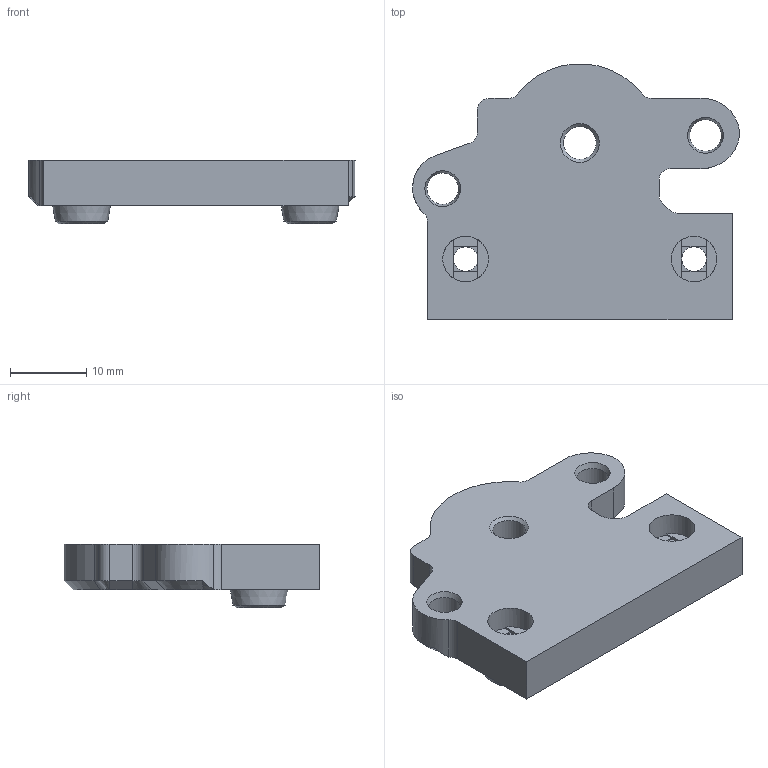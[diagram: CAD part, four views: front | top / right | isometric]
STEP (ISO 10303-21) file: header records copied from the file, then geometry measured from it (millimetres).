
FILE_DESCRIPTION(/* description */ (''),/* implementation_level */ '2;1');
FILE_NAME(/* name */ 'HMG7-Orbiter-V1.5-Front-Mount.step',/* time_stamp */ '2022-11-01T22:22:03-07:00',/* author */ (''),/* organization */ (''),/* preprocessor_version */ 'ST-DEVELOPER v19.2',/* originating_system */ 'Autodesk Translation Framework v11.17.0.187',/* authorisation */ '');
FILE_SCHEMA (('AUTOMOTIVE_DESIGN { 1 0 10303 214 3 1 1 }'));
Length unit declared in the file: millimetre
Products named in the file (3): GEN_7_1.5; Orbiter_1.5; Orbiter_1.5_Front
Assembly tree (2 placements, depth 3):
  GEN_7_1.5
    Orbiter_1.5
      Orbiter_1.5_Front
Bounding box: 42.9 x 33.6 x 8.38 mm (x, y, z)
Volume: 6395.4 mm3; surface area: 3548.9 mm2
Topology: 1 solids, 1 shells, 89 faces, 221 edges, 136 vertices
Faces by surface type: plane 46, cone 20, cylinder 20, bspline 3
Full cylindrical faces by diameter (mm): 3.2 x2, 4.15 x2, 4.3 x1, 6 x2
Entity records: 2769 total; most frequent: CARTESIAN_POINT 535, DIRECTION 469, ORIENTED_EDGE 442, EDGE_CURVE 221, AXIS2_PLACEMENT_3D 167, VERTEX_POINT 136, LINE 135, VECTOR 135
